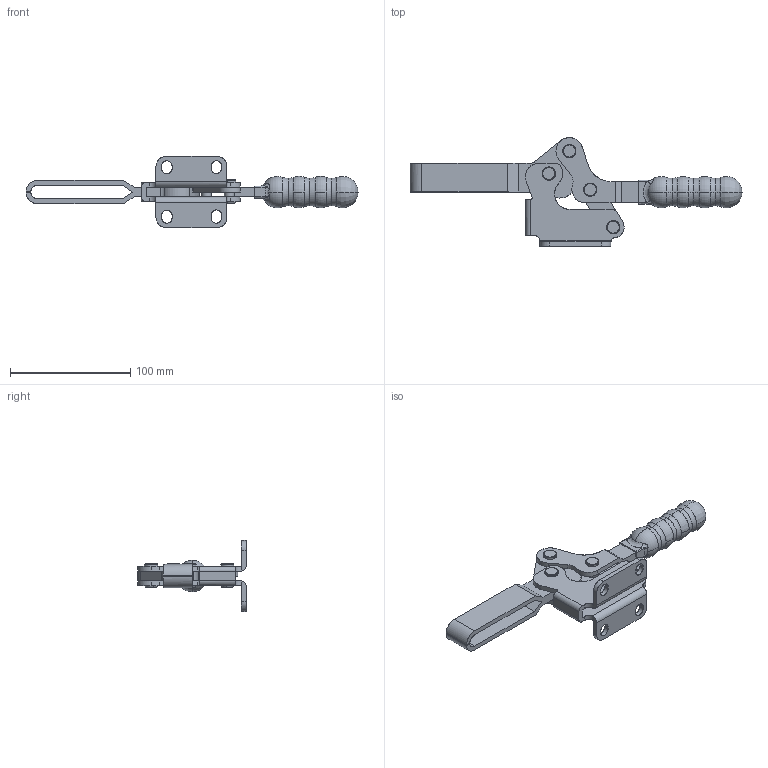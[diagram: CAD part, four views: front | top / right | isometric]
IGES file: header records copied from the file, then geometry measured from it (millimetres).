
Start section: Comment
Global section: file name: 23502b-gh.igs; native system:  By Spatial Corp.; preprocessor: XPlus PS/IGES 3.0; author: Author; organization: Title; date: 20050217.081958; units: inch
Bounding box: 275.88 x 90.25 x 59 mm (x, y, z)
Surface area: 65212.4 mm2 (no closed solid volume)
Topology: 0 solids, 0 shells, 295 faces, 1478 edges, 1474 vertices
Faces by surface type: revolution 191, extrusion 100, bspline 4
